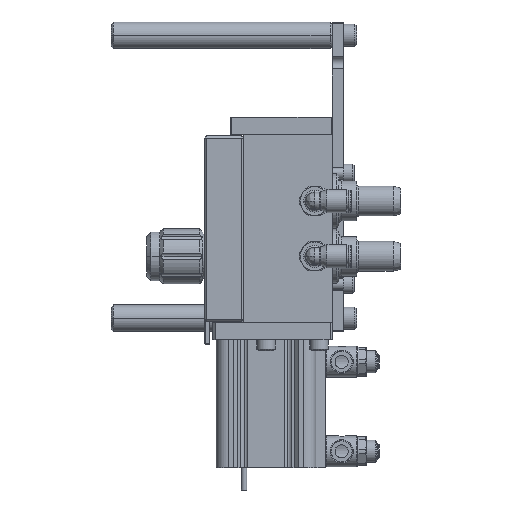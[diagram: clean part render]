
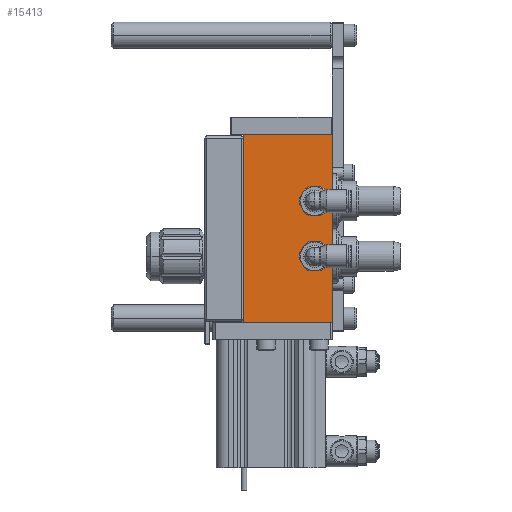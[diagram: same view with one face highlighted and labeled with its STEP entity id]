
A CAD part, left-side view. The second image highlights one B-rep face of the part: STEP entity #15413.
In plain terms, the highlighted planar face has unit normal (-1, 0, 0).
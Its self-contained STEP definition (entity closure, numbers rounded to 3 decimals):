
#22 = CIRCLE ( 'NONE', #30543, 4.4 ) ;
#571 = AXIS2_PLACEMENT_3D ( 'NONE', #4014, #13796, #9553 ) ;
#979 = CARTESIAN_POINT ( 'NONE',  ( -32.5, 8., 34.4 ) ) ;
#1025 = VERTEX_POINT ( 'NONE', #3642 ) ;
#1190 = DIRECTION ( 'NONE',  ( 0., 0., -1. ) ) ;
#1428 = EDGE_CURVE ( 'NONE', #41929, #39288, #28554, .T. ) ;
#1519 = VECTOR ( 'NONE', #33465, 1000. ) ;
#3642 = CARTESIAN_POINT ( 'NONE',  ( -32.5, 40., 0. ) ) ;
#4014 = CARTESIAN_POINT ( 'NONE',  ( -32.5, 8., 55. ) ) ;
#5634 = CARTESIAN_POINT ( 'NONE',  ( -32.5, 8., 30. ) ) ;
#6765 = VERTEX_POINT ( 'NONE', #10226 ) ;
#7918 = LINE ( 'NONE', #39750, #1519 ) ;
#9384 = ORIENTED_EDGE ( 'NONE', *, *, #1428, .F. ) ;
#9553 = DIRECTION ( 'NONE',  ( 0., 0., 1. ) ) ;
#10226 = CARTESIAN_POINT ( 'NONE',  ( -32.5, 8., 59.4 ) ) ;
#10339 = EDGE_CURVE ( 'NONE', #39288, #14139, #11379, .T. ) ;
#11379 = LINE ( 'NONE', #37277, #35916 ) ;
#11674 = CARTESIAN_POINT ( 'NONE',  ( -32.5, 8., 55. ) ) ;
#13046 = CIRCLE ( 'NONE', #18473, 4.4 ) ;
#13187 = VERTEX_POINT ( 'NONE', #30199 ) ;
#13280 = DIRECTION ( 'NONE',  ( -1., 0., 0. ) ) ;
#13796 = DIRECTION ( 'NONE',  ( -1., 0., 0. ) ) ;
#14139 = VERTEX_POINT ( 'NONE', #26745 ) ;
#14957 = ORIENTED_EDGE ( 'NONE', *, *, #17219, .F. ) ;
#15413 = ADVANCED_FACE ( 'NONE', ( #22679, #38158, #26060 ), #18847, .F. ) ;
#16652 = ORIENTED_EDGE ( 'NONE', *, *, #28837, .T. ) ;
#17219 = EDGE_CURVE ( 'NONE', #6765, #13187, #13046, .T. ) ;
#18260 = VECTOR ( 'NONE', #25998, 1000. ) ;
#18473 = AXIS2_PLACEMENT_3D ( 'NONE', #11674, #13280, #20272 ) ;
#18780 = EDGE_CURVE ( 'NONE', #32870, #28446, #27277, .T. ) ;
#18815 = DIRECTION ( 'NONE',  ( -1., 0., 0. ) ) ;
#18847 = PLANE ( 'NONE',  #27760 ) ;
#20004 = ORIENTED_EDGE ( 'NONE', *, *, #40280, .F. ) ;
#20272 = DIRECTION ( 'NONE',  ( 0., 0., 1. ) ) ;
#21283 = EDGE_CURVE ( 'NONE', #1025, #14139, #7918, .T. ) ;
#22071 = DIRECTION ( 'NONE',  ( 0., 0., -1. ) ) ;
#22410 = CARTESIAN_POINT ( 'NONE',  ( -32.5, 0., 85. ) ) ;
#22474 = DIRECTION ( 'NONE',  ( 1., 0., 0. ) ) ;
#22679 = FACE_BOUND ( 'NONE', #41679, .T. ) ;
#24810 = CARTESIAN_POINT ( 'NONE',  ( -32.5, 0., 85. ) ) ;
#24986 = CIRCLE ( 'NONE', #571, 4.4 ) ;
#25441 = CARTESIAN_POINT ( 'NONE',  ( -32.5, 40., 85. ) ) ;
#25998 = DIRECTION ( 'NONE',  ( 0., -1., 0. ) ) ;
#26060 = FACE_OUTER_BOUND ( 'NONE', #36891, .T. ) ;
#26131 = ORIENTED_EDGE ( 'NONE', *, *, #33677, .F. ) ;
#26613 = CARTESIAN_POINT ( 'NONE',  ( -32.5, 8., 30. ) ) ;
#26745 = CARTESIAN_POINT ( 'NONE',  ( -32.5, 0., 0. ) ) ;
#27277 = CIRCLE ( 'NONE', #41482, 4.4 ) ;
#27650 = CARTESIAN_POINT ( 'NONE',  ( -32.5, 8., 25.6 ) ) ;
#27760 = AXIS2_PLACEMENT_3D ( 'NONE', #38574, #22474, #35409 ) ;
#28376 = DIRECTION ( 'NONE',  ( 0., 0., 1. ) ) ;
#28446 = VERTEX_POINT ( 'NONE', #27650 ) ;
#28554 = LINE ( 'NONE', #22410, #18260 ) ;
#28837 = EDGE_CURVE ( 'NONE', #41929, #1025, #38178, .T. ) ;
#30199 = CARTESIAN_POINT ( 'NONE',  ( -32.5, 8., 50.6 ) ) ;
#30543 = AXIS2_PLACEMENT_3D ( 'NONE', #26613, #39521, #36362 ) ;
#30966 = EDGE_LOOP ( 'NONE', ( #32653, #20004 ) ) ;
#32452 = VECTOR ( 'NONE', #22071, 1000. ) ;
#32653 = ORIENTED_EDGE ( 'NONE', *, *, #18780, .F. ) ;
#32870 = VERTEX_POINT ( 'NONE', #979 ) ;
#33465 = DIRECTION ( 'NONE',  ( 0., -1., 0. ) ) ;
#33677 = EDGE_CURVE ( 'NONE', #13187, #6765, #24986, .T. ) ;
#35409 = DIRECTION ( 'NONE',  ( 0., 0., -1. ) ) ;
#35916 = VECTOR ( 'NONE', #1190, 1000. ) ;
#36362 = DIRECTION ( 'NONE',  ( 0., 0., 1. ) ) ;
#36891 = EDGE_LOOP ( 'NONE', ( #40274, #40855, #9384, #16652 ) ) ;
#37277 = CARTESIAN_POINT ( 'NONE',  ( -32.5, 0., 85. ) ) ;
#38158 = FACE_BOUND ( 'NONE', #30966, .T. ) ;
#38178 = LINE ( 'NONE', #25441, #32452 ) ;
#38421 = CARTESIAN_POINT ( 'NONE',  ( -32.5, 40., 85. ) ) ;
#38574 = CARTESIAN_POINT ( 'NONE',  ( -32.5, 0., 85. ) ) ;
#39288 = VERTEX_POINT ( 'NONE', #24810 ) ;
#39521 = DIRECTION ( 'NONE',  ( -1., 0., 0. ) ) ;
#39750 = CARTESIAN_POINT ( 'NONE',  ( -32.5, 0., 0. ) ) ;
#40274 = ORIENTED_EDGE ( 'NONE', *, *, #21283, .T. ) ;
#40280 = EDGE_CURVE ( 'NONE', #28446, #32870, #22, .T. ) ;
#40855 = ORIENTED_EDGE ( 'NONE', *, *, #10339, .F. ) ;
#41482 = AXIS2_PLACEMENT_3D ( 'NONE', #5634, #18815, #28376 ) ;
#41679 = EDGE_LOOP ( 'NONE', ( #14957, #26131 ) ) ;
#41929 = VERTEX_POINT ( 'NONE', #38421 ) ;
